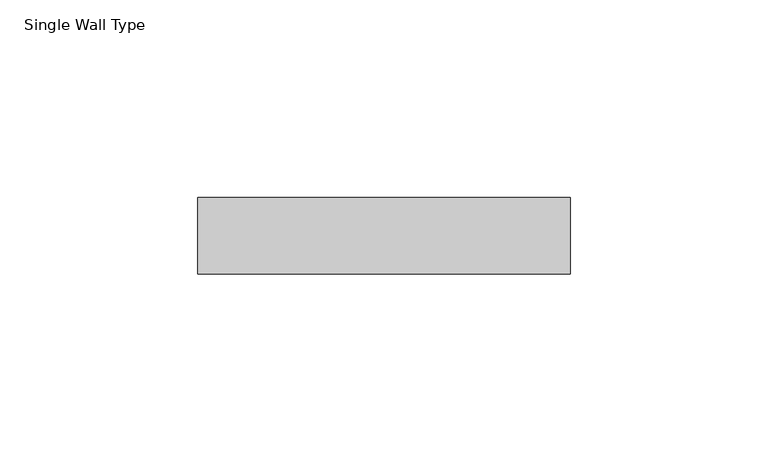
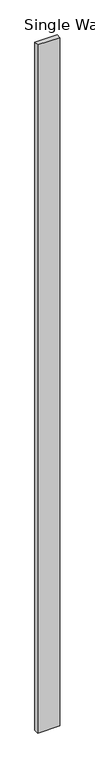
"""IFC4 building model written with IfcOpenShell, lengths in millimetres: proxy geometry, Corner_Cover-Teknion-FH3C-Three_Way_180_Degree-R2022 : Single Wall Type."""

from ifc_helpers import new_model, si_unit, origin, origin_with_axes, place, context, project, spatial, polyline, outline, extrude, source, transform, mapped, element, save


def single_wall_type_828f5cec(model_context):
    return source(origin(), model_context, "Body", "SweptSolid", [
        extrude(outline(polyline([(-46.99, 24.3522518), (-46.99, 43.6562515), (46.99, 43.6562515), (46.99, 24.3522518), (-46.99, 24.3522518)])), origin_with_axes(), (0.0, 0.0, 1.0), 3048.0),
    ])


if __name__ == "__main__":
    model = new_model("IFC4")
    model_context = context("Model", 3, world=origin())
    ifc_project = project(units=[si_unit("LENGTHUNIT", "METRE", prefix="MILLI")], contexts=[model_context])
    site = spatial("IfcSite", under=ifc_project)
    building = spatial("IfcBuilding", under=site)
    placement = place(None, origin())
    single_wall_type_shape = single_wall_type_828f5cec(model_context)
    element("IfcBuildingElementProxy", 1, Name="Corner_Cover-Teknion-FH3C-Three_Way_180_Degree-R2022 : Single Wall Type", ObjectType="Corner_Cover-Teknion-FH3C-Three_Way_180_Degree-R2022 : Single Wall Type", at=placement, inside=building, context=model_context, shape_type="MappedRepresentation", body=[
        mapped(single_wall_type_shape, transform((0.0, 0.0, 0.0), x_axis=(1.0, 0.0, 0.0), y_axis=(0.0, 1.0, 0.0), z_axis=(0.0, 0.0, 1.0))),
    ])
    save(model, "model.ifc")
